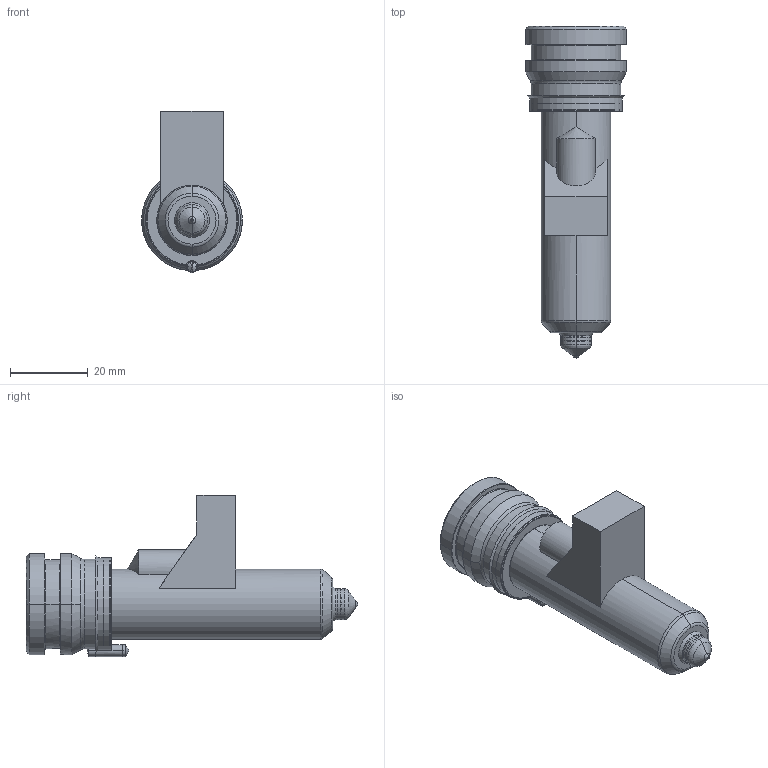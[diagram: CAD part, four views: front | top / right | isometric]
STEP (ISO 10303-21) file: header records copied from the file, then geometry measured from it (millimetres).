
FILE_DESCRIPTION((''),'2;1');
FILE_NAME('MPN-08-24-TX8-066-M','2026-02-05T13:25:47',('UPTIO'),('Thermoplay S.p.A.'),'CREO PARAMETRIC BY PTC INC, 2023494','CREO PARAMETRIC BY PTC INC, 2023494','');
FILE_SCHEMA(('CONFIG_CONTROL_DESIGN','SHAPE_APPEARANCE_LAYERS_GROUPS'));
Length unit declared in the file: millimetre
Products named in the file (1): MPN-08-24-TX8-066-M
Bounding box: 26 x 85.5 x 41.5 mm (x, y, z)
Volume: 17769.8 mm3; surface area: 22689.3 mm2
Topology: 2 solids, 3 shells, 532 faces, 1392 edges, 855 vertices
Faces by surface type: cylinder 174, plane 144, bspline 77, torus 62, cone 58, sphere 11, extrusion 6
Entity records: 28849 total; most frequent: CARTESIAN_POINT 13225, ORIENTED_EDGE 2762, DIRECTION 2491, EDGE_CURVE 1381, AXIS2_PLACEMENT_3D 974, VERTEX_POINT 855, EDGE_LOOP 562, VECTOR 543
